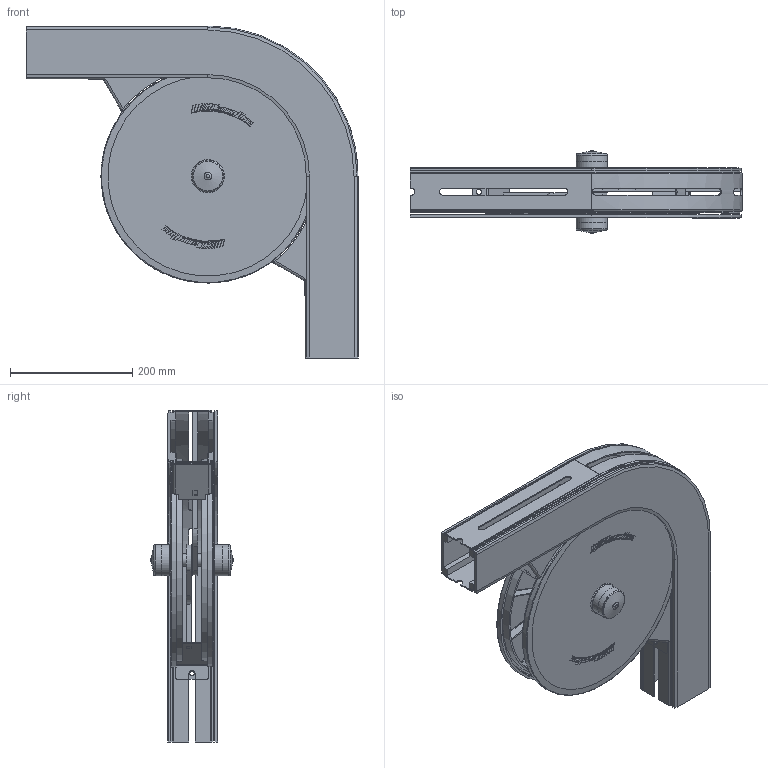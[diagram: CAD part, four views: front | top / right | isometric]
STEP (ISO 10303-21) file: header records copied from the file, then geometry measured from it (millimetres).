
FILE_DESCRIPTION(/* description */ ('WHEELCURVE 90° SERIE 530'),/* implementation_level */ '2;1');
FILE_NAME(/* name */ '530-5055-90.stp',/* time_stamp */ '2022-09-21T15:24:11+02:00',/* author */ ('ML'),/* organization */ ('CARRYLINE'),/* preprocessor_version */ 'ST-DEVELOPER v19.2',/* originating_system */ 'Autodesk Inventor 2023',/* authorisation */ '');
FILE_SCHEMA (('AUTOMOTIVE_DESIGN { 1 0 10303 214 3 1 1 }'));
Length unit declared in the file: millimetre
Products named in the file (8): 530-5055-90; 530-5375+830-2000-01; 830-5060_1; 830-5062; 14261_2; 14261_11; 14261_12; 14261_20
Assembly tree (10 placements, depth 2):
  530-5055-90
    530-5375+830-2000-01
    830-5060_1  x2
    830-5062  x2
    14261_2
    14261_11
    14261_12
    14261_20  x2
Bounding box: 543 x 136.8 x 543 mm (x, y, z)
Volume: 2872140.8 mm3; surface area: 1363885.2 mm2
Topology: 11 solids, 11 shells, 1398 faces, 3507 edges, 2204 vertices
Faces by surface type: plane 805, bspline 264, cylinder 197, cone 66, torus 62, sphere 4
Full cylindrical faces by diameter (mm): 4.917 x8, 6.2 x8, 8.5 x2, 16.2 x2, 17 x4, 20 x4, 30 x3, 40 x4, 47.6 x2, 51.3 x2, 350 x2
Entity records: 32001 total; most frequent: CARTESIAN_POINT 11964, ORIENTED_EDGE 4206, DIRECTION 3846, EDGE_CURVE 2103, VERTEX_POINT 1348, LINE 1320, VECTOR 1320, AXIS2_PLACEMENT_3D 1263
